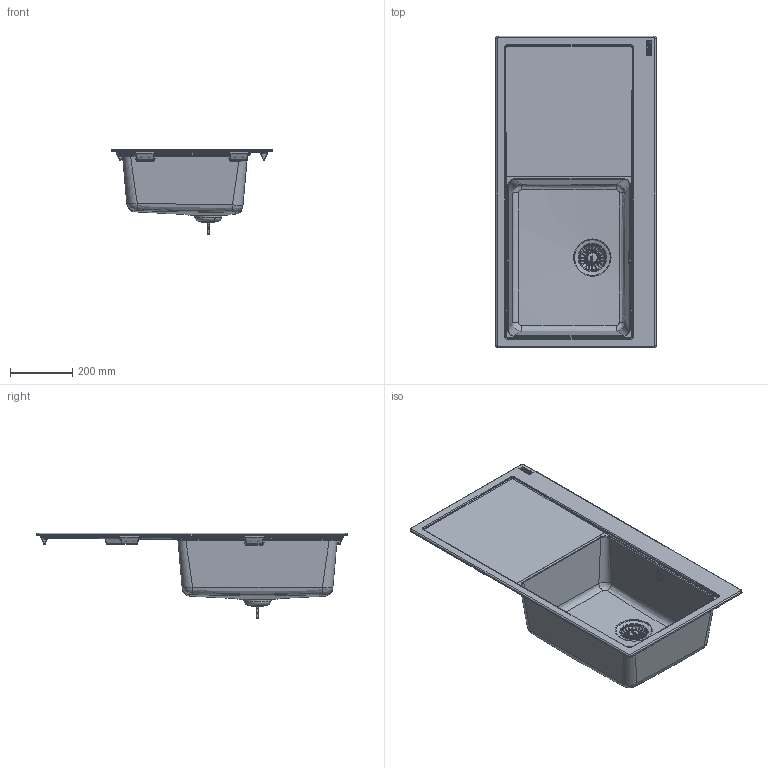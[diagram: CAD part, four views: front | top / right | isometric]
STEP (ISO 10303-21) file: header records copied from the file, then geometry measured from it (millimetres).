
FILE_DESCRIPTION(/* description */ (''),/* implementation_level */ '2;1');
FILE_NAME(/* name */ '3D001_Sinks_Mythos_MTG-611-LHD',/* time_stamp */ '2024-03-14T16:21:31+01:00',/* author */ (''),/* organization */ (''),/* preprocessor_version */ 'ST-DEVELOPER v19.2',/* originating_system */ 'Rhino 8.4',/* authorisation */ '');
FILE_SCHEMA (('CONFIG_CONTROL_DESIGN'));
Products named in the file (1): Document
Bounding box: 515 x 1000 x 274.27 mm (x, y, z)
Volume: 25467.9 mm3; surface area: 1676932.4 mm2
Topology: 15 solids, 17 shells, 2062 faces, 5424 edges, 3329 vertices
Faces by surface type: bspline 851, plane 734, cylinder 477
Full cylindrical faces by diameter (mm): 2.3 x12, 3.242 x1, 4 x1, 4.5 x1, 5.85 x2, 6 x1, 6.2 x1, 8 x2, 8.3 x1, 11 x1, 12.6 x1, 13.743 x1, 15 x1, 17.853 x1, 25 x4, 28 x2, 31 x2, 33 x2, 35 x2, 36 x1, 47 x1, 84 x1, 114.2 x1
Entity records: 118155 total; most frequent: CARTESIAN_POINT 66419, ORIENTED_EDGE 10690, DIRECTION 6561, EDGE_CURVE 5348, AXIS2_PLACEMENT_3D 3886, VERTEX_POINT 3329, CIRCLE 2672, TRIMMED_CURVE 2626
